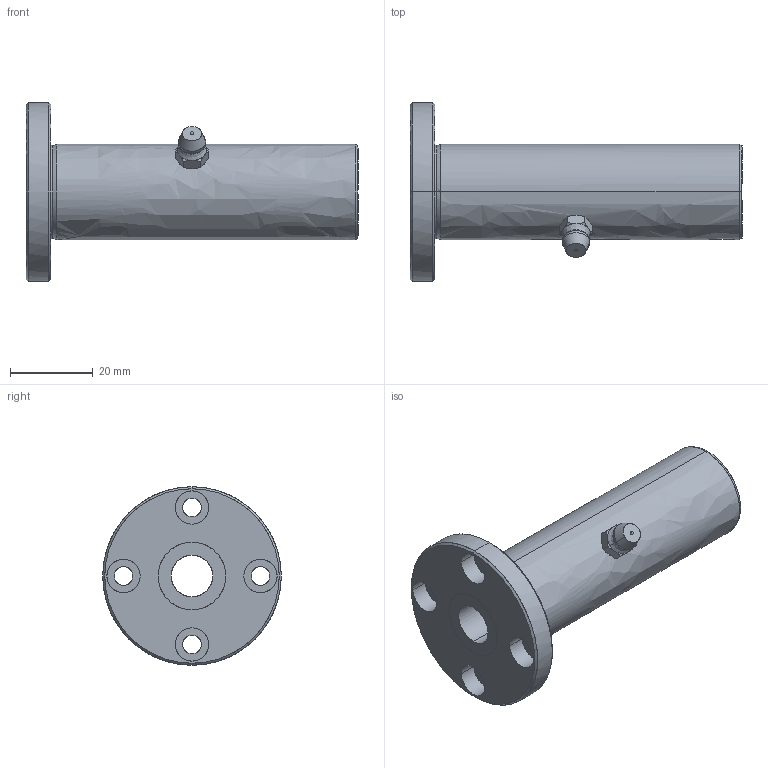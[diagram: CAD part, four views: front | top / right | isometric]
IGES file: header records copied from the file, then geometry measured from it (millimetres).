
Global section: file name: No Iges File Name specified; native system: AutoDesk Inventor R10; preprocessor: AutoDesk Inventor Iges Exporter R10; author: No Author specified; organization: No Organization specified; date: 20101211.161550; units: millimetre
Bounding box: 80 x 43 x 43 mm (x, y, z)
Surface area: 11932.3 mm2 (no closed solid volume)
Topology: 0 solids, 0 shells, 83 faces, 554 edges, 552 vertices
Faces by surface type: bspline 83
